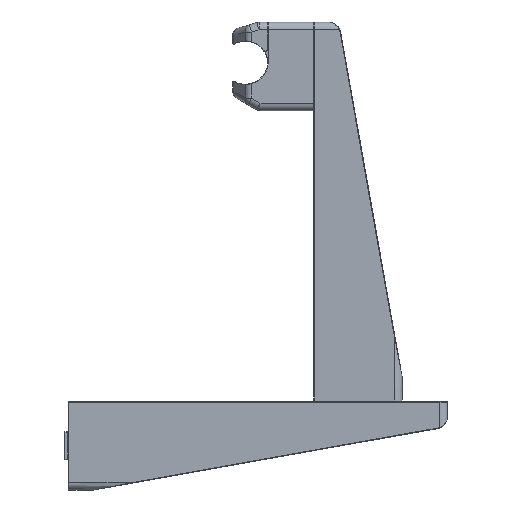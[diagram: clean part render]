
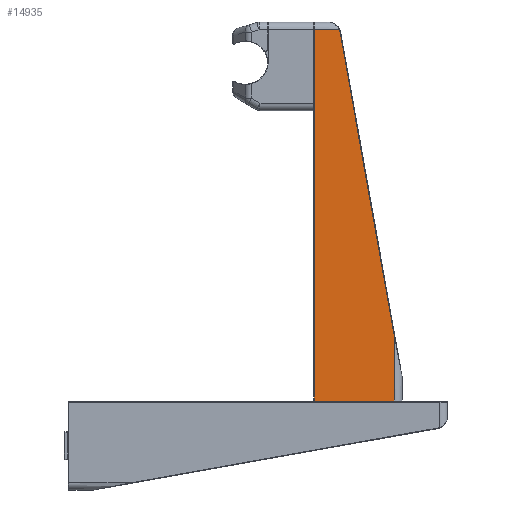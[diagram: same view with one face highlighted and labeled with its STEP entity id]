
A CAD part, front view. The second image highlights one B-rep face of the part: STEP entity #14935.
In plain terms, the highlighted planar face has unit normal (0, -1, 0).
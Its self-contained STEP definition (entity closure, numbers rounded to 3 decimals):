
#629=PLANE('',#16331);
#2150=LINE('',#26463,#3594);
#2151=LINE('',#26467,#3595);
#2156=LINE('',#26499,#3600);
#2157=LINE('',#26501,#3601);
#2158=LINE('',#26504,#3602);
#3594=VECTOR('',#20334,10.);
#3595=VECTOR('',#20339,10.);
#3600=VECTOR('',#20384,10.);
#3601=VECTOR('',#20385,10.);
#3602=VECTOR('',#20388,10.);
#4730=FACE_OUTER_BOUND('',#5671,.T.);
#5671=EDGE_LOOP('',(#13407,#13408,#13409,#13410,#13411,#13412));
#6180=CIRCLE('',#16332,4.8);
#7399=VERTEX_POINT('',#26457);
#7400=VERTEX_POINT('',#26461);
#7401=VERTEX_POINT('',#26465);
#7408=VERTEX_POINT('',#26498);
#7409=VERTEX_POINT('',#26500);
#7410=VERTEX_POINT('',#26502);
#9400=EDGE_CURVE('',#7400,#7399,#2150,.T.);
#9402=EDGE_CURVE('',#7399,#7401,#2151,.T.);
#9417=EDGE_CURVE('',#7408,#7400,#2156,.T.);
#9418=EDGE_CURVE('',#7409,#7408,#2157,.T.);
#9419=EDGE_CURVE('',#7410,#7409,#6180,.T.);
#9420=EDGE_CURVE('',#7401,#7410,#2158,.T.);
#13407=ORIENTED_EDGE('',*,*,#9402,.F.);
#13408=ORIENTED_EDGE('',*,*,#9400,.F.);
#13409=ORIENTED_EDGE('',*,*,#9417,.F.);
#13410=ORIENTED_EDGE('',*,*,#9418,.F.);
#13411=ORIENTED_EDGE('',*,*,#9419,.F.);
#13412=ORIENTED_EDGE('',*,*,#9420,.F.);
#14935=ADVANCED_FACE('',(#4730),#629,.T.);
#16331=AXIS2_PLACEMENT_3D('',#26497,#20382,#20383);
#16332=AXIS2_PLACEMENT_3D('',#26503,#20386,#20387);
#20334=DIRECTION('',(-1.,0.,0.));
#20339=DIRECTION('',(0.,0.,1.));
#20382=DIRECTION('center_axis',(0.,-1.,0.));
#20383=DIRECTION('ref_axis',(0.,0.,-1.));
#20384=DIRECTION('',(0.,0.,-1.));
#20385=DIRECTION('',(0.176,0.,-0.984));
#20386=DIRECTION('center_axis',(0.,1.,0.));
#20387=DIRECTION('ref_axis',(0.957,0.,0.29));
#20388=DIRECTION('',(1.,0.,0.));
#26457=CARTESIAN_POINT('',(0.2,0.,0.2));
#26461=CARTESIAN_POINT('',(32.,0.,0.2));
#26463=CARTESIAN_POINT('',(26.25,0.,0.2));
#26465=CARTESIAN_POINT('',(0.2,0.,147.));
#26467=CARTESIAN_POINT('',(0.2,0.,0.));
#26497=CARTESIAN_POINT('Origin',(35.,0.,0.));
#26498=CARTESIAN_POINT('',(32.,0.,25.662));
#26499=CARTESIAN_POINT('',(32.,0.,0.));
#26500=CARTESIAN_POINT('',(10.539,0.,145.844));
#26501=CARTESIAN_POINT('',(23.168,0.,75.119));
#26502=CARTESIAN_POINT('',(10.177,0.,147.));
#26503=CARTESIAN_POINT('Origin',(5.814,0.,145.));
#26504=CARTESIAN_POINT('',(26.25,0.,147.));
